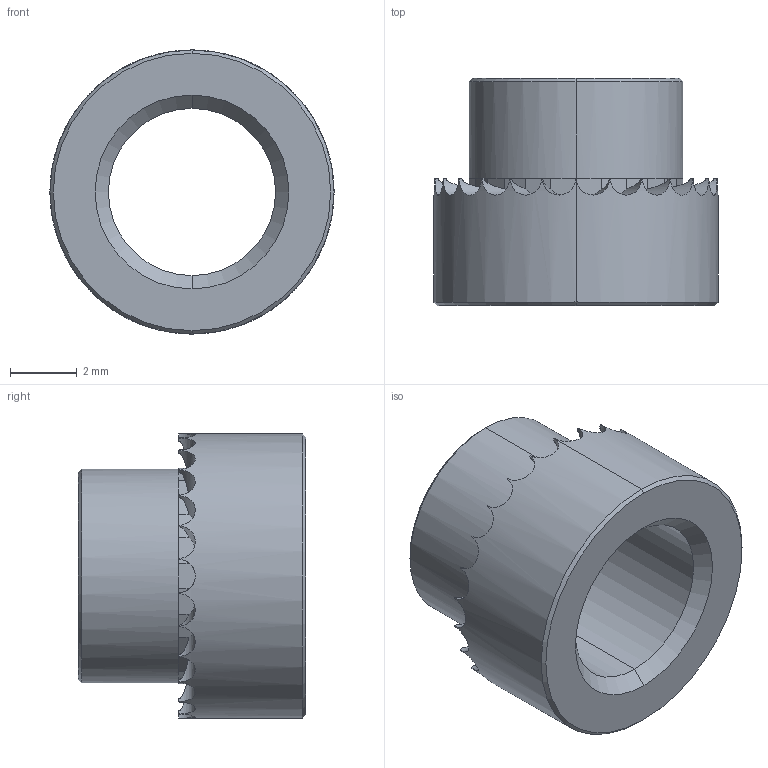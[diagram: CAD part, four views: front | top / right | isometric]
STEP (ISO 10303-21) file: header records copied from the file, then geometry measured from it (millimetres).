
FILE_DESCRIPTION (( 'STEP AP203' ), '1' );
FILE_NAME ('P0829.050-12G-ZP.step', '2019-03-21T22:17:34', ( '' ), ( '' ), 'SwSTEP 2.0', 'SolidWorks 2017', '' );
FILE_SCHEMA (( 'CONFIG_CONTROL_DESIGN' ));
Length unit declared in the file: millimetre
Products named in the file (1): P0829.050-12G-ZP
Bounding box: 8.5 x 6.8 x 8.5 mm (x, y, z)
Volume: 165.6 mm3; surface area: 339 mm2
Topology: 1 solids, 1 shells, 120 faces, 294 edges, 176 vertices
Faces by surface type: plane 80, cylinder 32, cone 8
Entity records: 3739 total; most frequent: CARTESIAN_POINT 903, ORIENTED_EDGE 588, DIRECTION 582, EDGE_CURVE 294, AXIS2_PLACEMENT_3D 219, VERTEX_POINT 176, VECTOR 144, LINE 144
